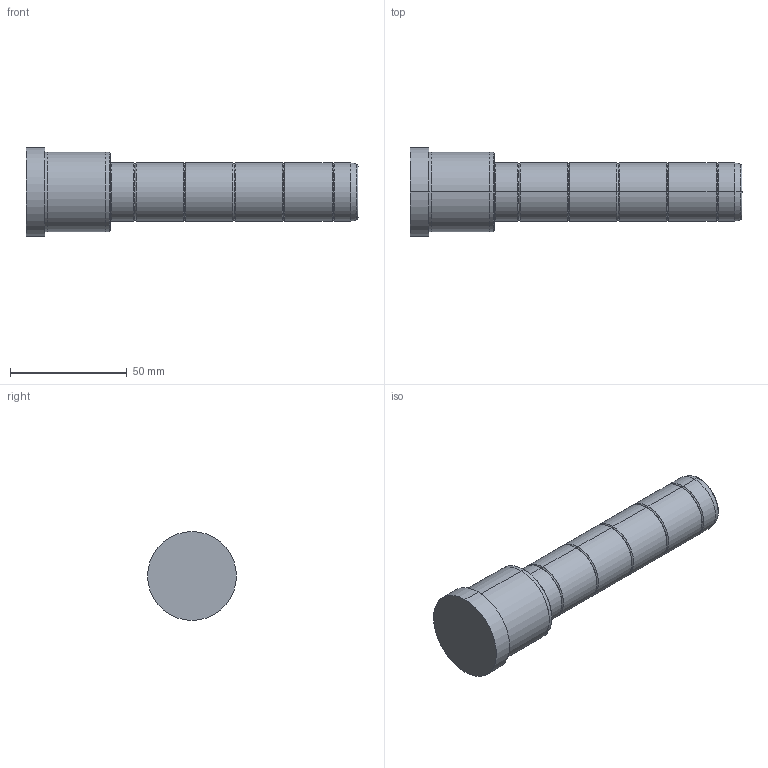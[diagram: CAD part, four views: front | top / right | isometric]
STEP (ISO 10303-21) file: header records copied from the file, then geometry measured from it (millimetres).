
FILE_DESCRIPTION( ( 'STEP AP203' ), '1' );
FILE_NAME( 'C:/Projects/D02 - 25x36x106.step', '2002-12-31T22:09:47', ( ' ' ), ( ' ' ), 'XStep 1.0', ' ', ' ' );
FILE_SCHEMA( ( 'CONFIG_CONTROL_DESIGN' ) );
Length unit declared in the file: metre
Products named in the file (1): 1
Bounding box: 142 x 38 x 38 mm (x, y, z)
Volume: 86292.6 mm3; surface area: 14625.6 mm2
Topology: 1 solids, 1 shells, 54 faces, 106 edges, 58 vertices
Faces by surface type: bspline 30, revolution 24
Entity records: 1721 total; most frequent: CARTESIAN_POINT 717, ORIENTED_EDGE 212, DIRECTION 166, EDGE_CURVE 106, AXIS2_PLACEMENT_3D 59, EDGE_LOOP 58, VERTEX_POINT 58, CIRCLE 58
